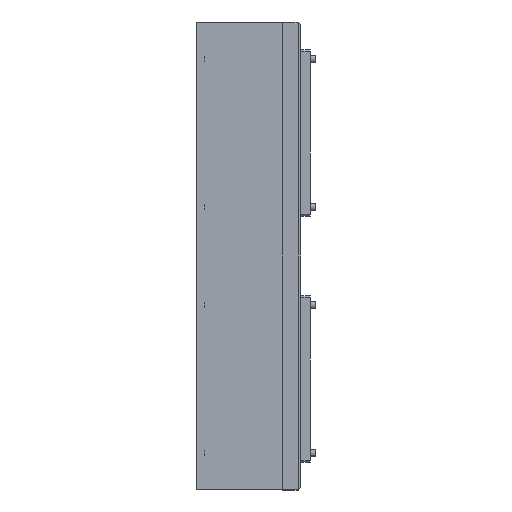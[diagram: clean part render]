
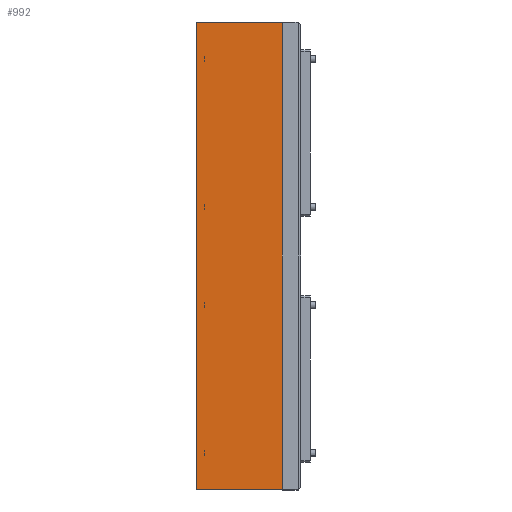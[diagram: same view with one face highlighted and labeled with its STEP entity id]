
A CAD part, left-side view. The second image highlights one B-rep face of the part: STEP entity #992.
In plain terms, the highlighted planar face has unit normal (-1, 0, 0).
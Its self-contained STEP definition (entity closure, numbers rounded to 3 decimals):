
#386 = CARTESIAN_POINT ( 'NONE',  ( -5., 10., -126.25 ) ) ;
#494 = CARTESIAN_POINT ( 'NONE',  ( -5., 56.5, -126.25 ) ) ;
#992 = ADVANCED_FACE ( 'NONE', ( #3225 ), #1432, .F. ) ;
#1030 = VECTOR ( 'NONE', #1793, 1000. ) ;
#1110 = CARTESIAN_POINT ( 'NONE',  ( -5., 56.5, 126.25 ) ) ;
#1153 = VERTEX_POINT ( 'NONE', #2191 ) ;
#1202 = VERTEX_POINT ( 'NONE', #386 ) ;
#1225 = VECTOR ( 'NONE', #3452, 1000. ) ;
#1254 = VERTEX_POINT ( 'NONE', #1385 ) ;
#1303 = DIRECTION ( 'NONE',  ( 0., 0., 1. ) ) ;
#1385 = CARTESIAN_POINT ( 'NONE',  ( -5., 56.5, -126.25 ) ) ;
#1386 = EDGE_CURVE ( 'NONE', #1202, #3097, #3572, .T. ) ;
#1432 = PLANE ( 'NONE',  #2959 ) ;
#1671 = VECTOR ( 'NONE', #2994, 1000. ) ;
#1721 = ORIENTED_EDGE ( 'NONE', *, *, #4021, .F. ) ;
#1737 = LINE ( 'NONE', #494, #1030 ) ;
#1793 = DIRECTION ( 'NONE',  ( 0., 0., 1. ) ) ;
#2129 = VECTOR ( 'NONE', #1303, 1000. ) ;
#2191 = CARTESIAN_POINT ( 'NONE',  ( -5., 56.5, 126.25 ) ) ;
#2206 = EDGE_CURVE ( 'NONE', #1254, #1202, #3346, .T. ) ;
#2507 = CARTESIAN_POINT ( 'NONE',  ( -5., 56.5, -126.25 ) ) ;
#2622 = EDGE_CURVE ( 'NONE', #1153, #3097, #3585, .T. ) ;
#2798 = ORIENTED_EDGE ( 'NONE', *, *, #2622, .F. ) ;
#2820 = CARTESIAN_POINT ( 'NONE',  ( -5., 10., -126.25 ) ) ;
#2959 = AXIS2_PLACEMENT_3D ( 'NONE', #3105, #3090, #3053 ) ;
#2994 = DIRECTION ( 'NONE',  ( 0., -1., 0. ) ) ;
#3053 = DIRECTION ( 'NONE',  ( 0., 0., -1. ) ) ;
#3062 = ORIENTED_EDGE ( 'NONE', *, *, #1386, .T. ) ;
#3090 = DIRECTION ( 'NONE',  ( 1., 0., 0. ) ) ;
#3097 = VERTEX_POINT ( 'NONE', #3338 ) ;
#3105 = CARTESIAN_POINT ( 'NONE',  ( -5., 56.5, -126.25 ) ) ;
#3225 = FACE_OUTER_BOUND ( 'NONE', #3766, .T. ) ;
#3338 = CARTESIAN_POINT ( 'NONE',  ( -5., 10., 126.25 ) ) ;
#3346 = LINE ( 'NONE', #2507, #1225 ) ;
#3452 = DIRECTION ( 'NONE',  ( 0., -1., 0. ) ) ;
#3572 = LINE ( 'NONE', #2820, #2129 ) ;
#3585 = LINE ( 'NONE', #1110, #1671 ) ;
#3754 = ORIENTED_EDGE ( 'NONE', *, *, #2206, .T. ) ;
#3766 = EDGE_LOOP ( 'NONE', ( #3062, #2798, #1721, #3754 ) ) ;
#4021 = EDGE_CURVE ( 'NONE', #1254, #1153, #1737, .T. ) ;
